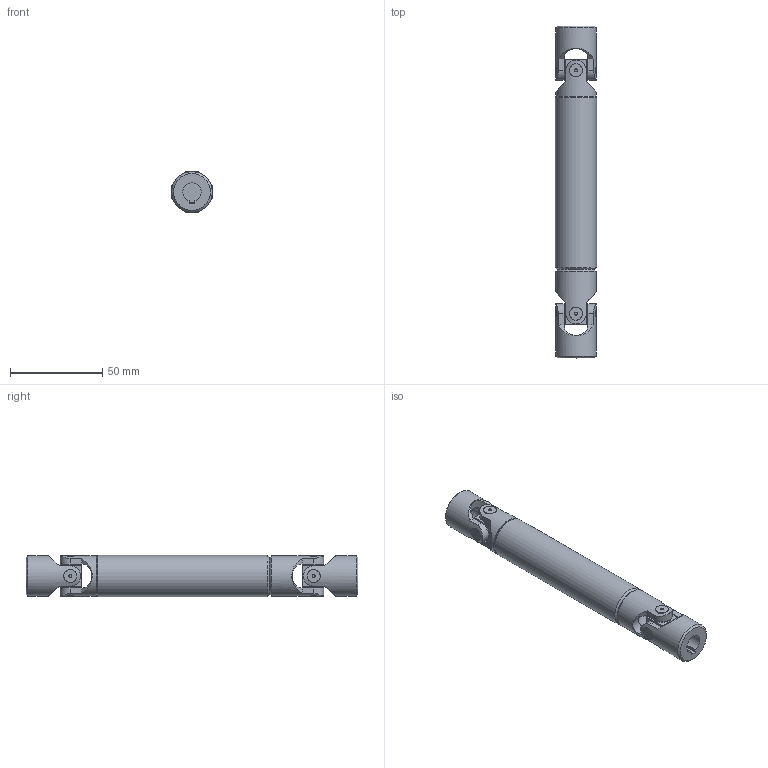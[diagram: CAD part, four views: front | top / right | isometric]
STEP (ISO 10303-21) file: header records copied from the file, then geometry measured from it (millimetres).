
FILE_DESCRIPTION(/* description */ (''),/* implementation_level */ '2;1');
FILE_NAME(/* name */ '\\SRV2016\Societa\Stefano\Disegni 3D\00Catalogo 3D\03Trasmissioni standard GA\!03GA20\!03GA20_SG0A1020.stp',/* time_stamp */ '2022-02-15T10:42:17+01:00',/* author */ ('acquisti'),/* organization */ (''),/* preprocessor_version */ 'ST-DEVELOPER v15.6',/* originating_system */ 'Autodesk Inventor 2015',/* authorisation */ '');
FILE_SCHEMA (('AUTOMOTIVE_DESIGN { 1 0 10303 214 3 1 1 }'));
Length unit declared in the file: millimetre
Products named in the file (5): !03GA20 LCI; !03GA20 LAI; 03G SFE; 03G MOC; !03GA20_SG0A1020
Assembly tree (6 placements, depth 2):
  !03GA20_SG0A1020
    !03GA20 LCI
    !03GA20 LAI
    03G SFE  x2
    03G MOC  x2
Bounding box: 22.5 x 180 x 22.5 mm (x, y, z)
Volume: 51957.3 mm3; surface area: 28064.2 mm2
Topology: 6 solids, 6 shells, 212 faces, 517 edges, 341 vertices
Faces by surface type: plane 106, cylinder 77, cone 25, torus 4
Full cylindrical faces by diameter (mm): 1.5 x8, 10 x9, 11.5 x2, 18 x1, 22 x4, 22.5 x1
Entity records: 5393 total; most frequent: CARTESIAN_POINT 1571, DIRECTION 775, ORIENTED_EDGE 748, EDGE_CURVE 374, AXIS2_PLACEMENT_3D 311, VERTEX_POINT 262, EDGE_LOOP 212, FACE_OUTER_BOUND 164
